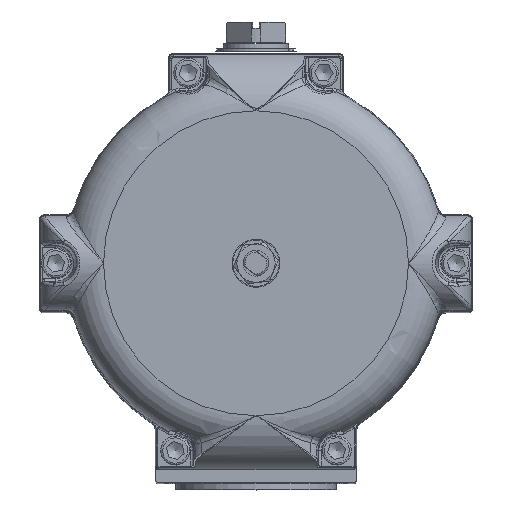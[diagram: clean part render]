
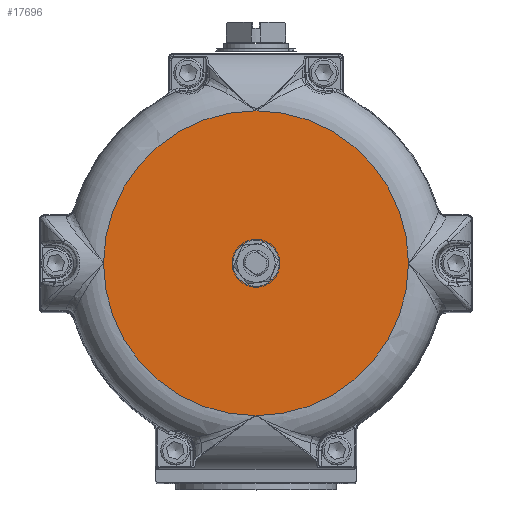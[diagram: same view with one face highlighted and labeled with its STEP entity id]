
A CAD part, top view. The second image highlights one B-rep face of the part: STEP entity #17696.
In plain terms, the highlighted planar face has unit normal (0, 0, 1).
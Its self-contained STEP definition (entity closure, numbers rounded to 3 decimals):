
#10294=CARTESIAN_POINT('',(-94.454,0.,234.5));
#10295=VERTEX_POINT('',#10294);
#10314=CARTESIAN_POINT('',(0.,94.454,234.5));
#10315=VERTEX_POINT('',#10314);
#10316=CARTESIAN_POINT('',(0.,0.,234.5));
#10317=DIRECTION('',(0.0,0.0,1.0));
#10318=DIRECTION('',(-1.0,0.0,0.0));
#10319=AXIS2_PLACEMENT_3D('',#10316,#10317,#10318);
#10320=CIRCLE('',#10319,94.454);
#10321=EDGE_CURVE('',#10315,#10295,#10320,.T.);
#10612=CARTESIAN_POINT('',(94.454,0.,234.5));
#10613=VERTEX_POINT('',#10612);
#10614=CARTESIAN_POINT('',(0.,0.,234.5));
#10615=DIRECTION('',(0.0,0.0,1.0));
#10616=DIRECTION('',(-1.0,0.0,0.0));
#10617=AXIS2_PLACEMENT_3D('',#10614,#10615,#10616);
#10618=CIRCLE('',#10617,94.454);
#10619=EDGE_CURVE('',#10613,#10315,#10618,.T.);
#12419=CARTESIAN_POINT('',(0.,-94.454,234.5));
#12420=VERTEX_POINT('',#12419);
#12421=CARTESIAN_POINT('',(0.,0.,234.5));
#12422=DIRECTION('',(0.0,0.0,1.0));
#12423=DIRECTION('',(-1.0,0.0,0.0));
#12424=AXIS2_PLACEMENT_3D('',#12421,#12422,#12423);
#12425=CIRCLE('',#12424,94.454);
#12426=EDGE_CURVE('',#12420,#10613,#12425,.T.);
#12882=CARTESIAN_POINT('',(0.,0.,234.5));
#12883=DIRECTION('',(0.0,0.0,1.0));
#12884=DIRECTION('',(-1.0,0.0,0.0));
#12885=AXIS2_PLACEMENT_3D('',#12882,#12883,#12884);
#12886=CIRCLE('',#12885,94.454);
#12887=EDGE_CURVE('',#10295,#12420,#12886,.T.);
#17685=CARTESIAN_POINT('',(-47.227,0.,234.5));
#17686=DIRECTION('',(0.0,0.0,1.0));
#17687=DIRECTION('',(0.0,-1.0,0.0));
#17688=AXIS2_PLACEMENT_3D('',#17685,#17686,#17687);
#17689=PLANE('',#17688);
#17690=ORIENTED_EDGE('',*,*,#12426,.T.);
#17691=ORIENTED_EDGE('',*,*,#10619,.T.);
#17692=ORIENTED_EDGE('',*,*,#10321,.T.);
#17693=ORIENTED_EDGE('',*,*,#12887,.T.);
#17694=EDGE_LOOP('',(#17690,#17691,#17692,#17693));
#17695=FACE_OUTER_BOUND('',#17694,.T.);
#17696=ADVANCED_FACE('',(#17695),#17689,.T.);
